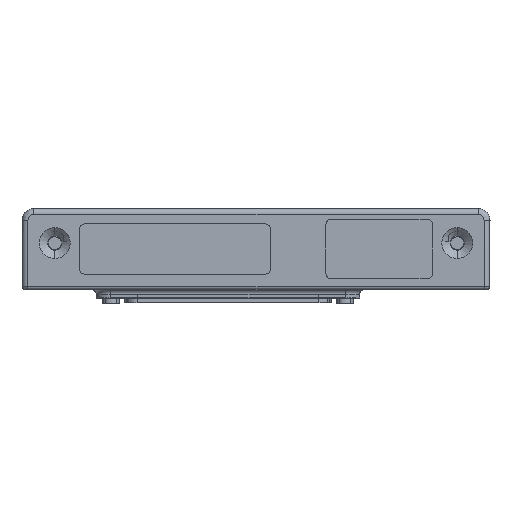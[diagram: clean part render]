
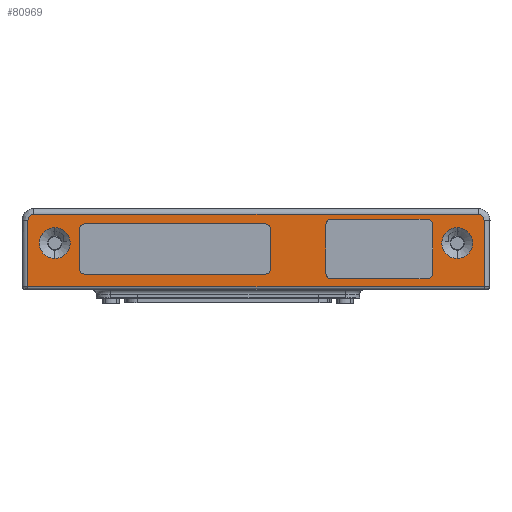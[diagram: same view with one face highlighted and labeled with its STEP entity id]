
A CAD part, left-side view. The second image highlights one B-rep face of the part: STEP entity #80969.
In plain terms, the highlighted planar face has unit normal (-1, 0, 0).
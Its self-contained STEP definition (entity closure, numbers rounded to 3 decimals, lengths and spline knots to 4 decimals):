
#20398=CARTESIAN_POINT('',(-8.68,-2.15,-0.37));
#20399=DIRECTION('',(1.,0.,0.));
#20400=DIRECTION('',(0.,0.,1.));
#20401=AXIS2_PLACEMENT_3D('',#20398,#20399,#20400);
#20403=CARTESIAN_POINT('',(-8.68,-2.15,-0.37));
#20404=DIRECTION('',(1.,0.,0.));
#20405=DIRECTION('',(0.,0.,-1.));
#20406=AXIS2_PLACEMENT_3D('',#20403,#20404,#20405);
#20408=CARTESIAN_POINT('',(-8.68,2.15,-0.37));
#20409=DIRECTION('',(1.,0.,0.));
#20410=DIRECTION('',(0.,0.,1.));
#20411=AXIS2_PLACEMENT_3D('',#20408,#20409,#20410);
#20413=CARTESIAN_POINT('',(-8.68,2.15,-0.37));
#20414=DIRECTION('',(1.,0.,0.));
#20415=DIRECTION('',(0.,0.,-1.));
#20416=AXIS2_PLACEMENT_3D('',#20413,#20414,#20415);
#20418=CARTESIAN_POINT('',(-8.68,-1.8273,-0.693));
#20419=DIRECTION('',(-1.,0.,0.));
#20420=DIRECTION('',(0.,0.,-1.));
#20421=AXIS2_PLACEMENT_3D('',#20418,#20419,#20420);
#20423=DIRECTION('',(0.,0.,1.));
#20424=VECTOR('',#20423,0.52);
#20425=CARTESIAN_POINT('',(-8.68,-1.8873,-0.693));
#20426=LINE('',#20425,#20424);
#20427=CARTESIAN_POINT('',(-8.68,-1.8273,-0.173));
#20428=DIRECTION('',(-1.,0.,0.));
#20429=DIRECTION('',(0.,-1.,0.));
#20430=AXIS2_PLACEMENT_3D('',#20427,#20428,#20429);
#20432=DIRECTION('',(0.,1.,0.));
#20433=VECTOR('',#20432,1.02);
#20434=CARTESIAN_POINT('',(-8.68,-1.8273,-0.113));
#20435=LINE('',#20434,#20433);
#20436=CARTESIAN_POINT('',(-8.68,-0.8073,-0.173));
#20437=DIRECTION('',(-1.,0.,0.));
#20438=DIRECTION('',(0.,0.,1.));
#20439=AXIS2_PLACEMENT_3D('',#20436,#20437,#20438);
#20441=DIRECTION('',(0.,0.,-1.));
#20442=VECTOR('',#20441,0.52);
#20443=CARTESIAN_POINT('',(-8.68,-0.7473,-0.173));
#20444=LINE('',#20443,#20442);
#20445=CARTESIAN_POINT('',(-8.68,-0.8073,-0.693));
#20446=DIRECTION('',(-1.,0.,0.));
#20447=DIRECTION('',(0.,1.,0.));
#20448=AXIS2_PLACEMENT_3D('',#20445,#20446,#20447);
#20450=DIRECTION('',(0.,-1.,0.));
#20451=VECTOR('',#20450,1.02);
#20452=CARTESIAN_POINT('',(-8.68,-0.8073,-0.753));
#20453=LINE('',#20452,#20451);
#20454=CARTESIAN_POINT('',(-8.68,-0.0933,-0.6435));
#20455=DIRECTION('',(-1.,0.,0.));
#20456=DIRECTION('',(0.,0.,-1.));
#20457=AXIS2_PLACEMENT_3D('',#20454,#20455,#20456);
#20459=DIRECTION('',(0.,0.,1.));
#20460=VECTOR('',#20459,0.42);
#20461=CARTESIAN_POINT('',(-8.68,-0.1533,-0.6435));
#20462=LINE('',#20461,#20460);
#20463=CARTESIAN_POINT('',(-8.68,-0.0933,-0.2235));
#20464=DIRECTION('',(-1.,0.,0.));
#20465=DIRECTION('',(0.,-1.,0.));
#20466=AXIS2_PLACEMENT_3D('',#20463,#20464,#20465);
#20468=DIRECTION('',(0.,1.,0.));
#20469=VECTOR('',#20468,1.92);
#20470=CARTESIAN_POINT('',(-8.68,-0.0933,-0.1635));
#20471=LINE('',#20470,#20469);
#20472=CARTESIAN_POINT('',(-8.68,1.8267,-0.2235));
#20473=DIRECTION('',(-1.,0.,0.));
#20474=DIRECTION('',(0.,0.,1.));
#20475=AXIS2_PLACEMENT_3D('',#20472,#20473,#20474);
#20477=DIRECTION('',(0.,0.,-1.));
#20478=VECTOR('',#20477,0.42);
#20479=CARTESIAN_POINT('',(-8.68,1.8867,-0.2235));
#20480=LINE('',#20479,#20478);
#20481=CARTESIAN_POINT('',(-8.68,1.8267,-0.6435));
#20482=DIRECTION('',(-1.,0.,0.));
#20483=DIRECTION('',(0.,1.,0.));
#20484=AXIS2_PLACEMENT_3D('',#20481,#20482,#20483);
#20486=DIRECTION('',(0.,-1.,0.));
#20487=VECTOR('',#20486,1.92);
#20488=CARTESIAN_POINT('',(-8.68,1.8267,-0.7035));
#20489=LINE('',#20488,#20487);
#20490=DIRECTION('',(0.,-1.,0.));
#20491=VECTOR('',#20490,4.8723);
#20492=CARTESIAN_POINT('',(-8.68,2.4362,
-0.834));
#20493=LINE('',#20492,#20491);
#20503=CARTESIAN_POINT('',(-8.68,-2.4362,
-0.834));
#20546=DIRECTION('',(0.,0.,1.));
#20547=VECTOR('',#20546,0.709);
#20548=CARTESIAN_POINT('',(-8.68,-2.4362,
-0.834));
#20549=LINE('',#20548,#20547);
#20554=CARTESIAN_POINT('',(-8.68,-2.375,-0.125));
#20555=DIRECTION('',(-1.,0.,0.));
#20556=DIRECTION('',(0.,-1.,0.));
#20557=AXIS2_PLACEMENT_3D('',#20554,#20555,#20556);
#20569=DIRECTION('',(0.,1.,0.));
#20570=VECTOR('',#20569,4.75);
#20571=CARTESIAN_POINT('',(-8.68,-2.375,-0.0638));
#20572=LINE('',#20571,#20570);
#20582=CARTESIAN_POINT('',(-8.68,2.375,-0.125));
#20583=DIRECTION('',(-1.,0.,0.));
#20584=DIRECTION('',(0.,0.,1.));
#20585=AXIS2_PLACEMENT_3D('',#20582,#20583,#20584);
#20606=DIRECTION('',(0.,0.,-1.));
#20607=VECTOR('',#20606,0.709);
#20608=CARTESIAN_POINT('',(-8.68,2.4362,-0.125));
#20609=LINE('',#20608,#20607);
#44995=CARTESIAN_POINT('',(-8.68,-2.15,-0.205));
#44996=CARTESIAN_POINT('',(-8.68,-2.15,-0.535));
#44997=VERTEX_POINT('',#44995);
#44998=VERTEX_POINT('',#44996);
#44999=CARTESIAN_POINT('',(-8.68,2.15,-0.205));
#45000=CARTESIAN_POINT('',(-8.68,2.15,-0.535));
#45001=VERTEX_POINT('',#44999);
#45002=VERTEX_POINT('',#45000);
#45986=CARTESIAN_POINT('',(-8.68,2.375,-0.0638));
#45987=CARTESIAN_POINT('',(-8.68,2.4362,-0.125));
#45988=VERTEX_POINT('',#45986);
#45989=VERTEX_POINT('',#45987);
#45994=CARTESIAN_POINT('',(-8.68,-2.375,-0.0638));
#45995=VERTEX_POINT('',#45994);
#45998=CARTESIAN_POINT('',(-8.68,-2.4362,-0.125));
#45999=VERTEX_POINT('',#45998);
#46002=VERTEX_POINT('',#20503);
#46006=CARTESIAN_POINT('',(-8.68,2.4362,
-0.834));
#46007=VERTEX_POINT('',#46006);
#46140=CARTESIAN_POINT('',(-8.68,-1.8273,-0.753));
#46141=CARTESIAN_POINT('',(-8.68,-1.8873,-0.693));
#46142=VERTEX_POINT('',#46140);
#46143=VERTEX_POINT('',#46141);
#46144=CARTESIAN_POINT('',(-8.68,-1.8873,-0.173));
#46145=VERTEX_POINT('',#46144);
#46146=CARTESIAN_POINT('',(-8.68,-1.8273,-0.113));
#46147=VERTEX_POINT('',#46146);
#46148=CARTESIAN_POINT('',(-8.68,-0.8073,-0.113));
#46149=VERTEX_POINT('',#46148);
#46150=CARTESIAN_POINT('',(-8.68,-0.7473,-0.173));
#46151=VERTEX_POINT('',#46150);
#46152=CARTESIAN_POINT('',(-8.68,-0.7473,-0.693));
#46153=VERTEX_POINT('',#46152);
#46154=CARTESIAN_POINT('',(-8.68,-0.8073,-0.753));
#46155=VERTEX_POINT('',#46154);
#46156=CARTESIAN_POINT('',(-8.68,-0.0933,-0.7035));
#46157=CARTESIAN_POINT('',(-8.68,-0.1533,-0.6435));
#46158=VERTEX_POINT('',#46156);
#46159=VERTEX_POINT('',#46157);
#46160=CARTESIAN_POINT('',(-8.68,-0.1533,-0.2235));
#46161=VERTEX_POINT('',#46160);
#46162=CARTESIAN_POINT('',(-8.68,-0.0933,-0.1635));
#46163=VERTEX_POINT('',#46162);
#46164=CARTESIAN_POINT('',(-8.68,1.8267,-0.1635));
#46165=VERTEX_POINT('',#46164);
#46166=CARTESIAN_POINT('',(-8.68,1.8867,-0.2235));
#46167=VERTEX_POINT('',#46166);
#46168=CARTESIAN_POINT('',(-8.68,1.8867,-0.6435));
#46169=VERTEX_POINT('',#46168);
#46170=CARTESIAN_POINT('',(-8.68,1.8267,-0.7035));
#46171=VERTEX_POINT('',#46170);
#80903=CARTESIAN_POINT('',(-8.68,0.,-0.8665));
#80904=DIRECTION('',(-1.,0.,0.));
#80905=DIRECTION('',(0.,0.,1.));
#80906=AXIS2_PLACEMENT_3D('',#80903,#80904,#80905);
#80907=PLANE('',#80906);
#80909=ORIENTED_EDGE('',*,*,#80908,.F.);
#80911=ORIENTED_EDGE('',*,*,#80910,.F.);
#80913=ORIENTED_EDGE('',*,*,#80912,.F.);
#80915=ORIENTED_EDGE('',*,*,#80914,.F.);
#80917=ORIENTED_EDGE('',*,*,#80916,.F.);
#80919=ORIENTED_EDGE('',*,*,#80918,.F.);
#80920=EDGE_LOOP('',(#80909,#80911,#80913,#80915,#80917,#80919));
#80921=FACE_OUTER_BOUND('',#80920,.F.);
#80922=ORIENTED_EDGE('',*,*,#80893,.F.);
#80924=ORIENTED_EDGE('',*,*,#80923,.F.);
#80925=EDGE_LOOP('',(#80922,#80924));
#80926=FACE_BOUND('',#80925,.F.);
#80928=ORIENTED_EDGE('',*,*,#80927,.F.);
#80930=ORIENTED_EDGE('',*,*,#80929,.F.);
#80931=EDGE_LOOP('',(#80928,#80930));
#80932=FACE_BOUND('',#80931,.F.);
#80934=ORIENTED_EDGE('',*,*,#80933,.T.);
#80936=ORIENTED_EDGE('',*,*,#80935,.T.);
#80938=ORIENTED_EDGE('',*,*,#80937,.T.);
#80940=ORIENTED_EDGE('',*,*,#80939,.T.);
#80942=ORIENTED_EDGE('',*,*,#80941,.T.);
#80944=ORIENTED_EDGE('',*,*,#80943,.T.);
#80946=ORIENTED_EDGE('',*,*,#80945,.T.);
#80948=ORIENTED_EDGE('',*,*,#80947,.T.);
#80949=EDGE_LOOP('',(#80934,#80936,#80938,#80940,#80942,#80944,#80946,#80948));
#80950=FACE_BOUND('',#80949,.F.);
#80952=ORIENTED_EDGE('',*,*,#80951,.T.);
#80954=ORIENTED_EDGE('',*,*,#80953,.T.);
#80956=ORIENTED_EDGE('',*,*,#80955,.T.);
#80958=ORIENTED_EDGE('',*,*,#80957,.T.);
#80960=ORIENTED_EDGE('',*,*,#80959,.T.);
#80962=ORIENTED_EDGE('',*,*,#80961,.T.);
#80964=ORIENTED_EDGE('',*,*,#80963,.T.);
#80966=ORIENTED_EDGE('',*,*,#80965,.T.);
#80967=EDGE_LOOP('',(#80952,#80954,#80956,#80958,#80960,#80962,#80964,#80966));
#80968=FACE_BOUND('',#80967,.F.);
#80969=ADVANCED_FACE('',(#80921,#80926,#80932,#80950,#80968),#80907,.T.);
#20402=CIRCLE('',#20401,0.165);
#20407=CIRCLE('',#20406,0.165);
#20412=CIRCLE('',#20411,0.165);
#20417=CIRCLE('',#20416,0.165);
#20422=CIRCLE('',#20421,0.06);
#20431=CIRCLE('',#20430,0.06);
#20440=CIRCLE('',#20439,0.06);
#20449=CIRCLE('',#20448,0.06);
#20458=CIRCLE('',#20457,0.06);
#20467=CIRCLE('',#20466,0.06);
#20476=CIRCLE('',#20475,0.06);
#20485=CIRCLE('',#20484,0.06);
#20558=CIRCLE('',#20557,0.0612);
#20586=CIRCLE('',#20585,0.0612);
#80893=EDGE_CURVE('',#44997,#44998,#20402,.T.);
#80908=EDGE_CURVE('',#46007,#46002,#20493,.T.);
#80910=EDGE_CURVE('',#45989,#46007,#20609,.T.);
#80912=EDGE_CURVE('',#45988,#45989,#20586,.T.);
#80914=EDGE_CURVE('',#45995,#45988,#20572,.T.);
#80916=EDGE_CURVE('',#45999,#45995,#20558,.T.);
#80918=EDGE_CURVE('',#46002,#45999,#20549,.T.);
#80923=EDGE_CURVE('',#44998,#44997,#20407,.T.);
#80927=EDGE_CURVE('',#45001,#45002,#20412,.T.);
#80929=EDGE_CURVE('',#45002,#45001,#20417,.T.);
#80933=EDGE_CURVE('',#46142,#46143,#20422,.T.);
#80935=EDGE_CURVE('',#46143,#46145,#20426,.T.);
#80937=EDGE_CURVE('',#46145,#46147,#20431,.T.);
#80939=EDGE_CURVE('',#46147,#46149,#20435,.T.);
#80941=EDGE_CURVE('',#46149,#46151,#20440,.T.);
#80943=EDGE_CURVE('',#46151,#46153,#20444,.T.);
#80945=EDGE_CURVE('',#46153,#46155,#20449,.T.);
#80947=EDGE_CURVE('',#46155,#46142,#20453,.T.);
#80951=EDGE_CURVE('',#46158,#46159,#20458,.T.);
#80953=EDGE_CURVE('',#46159,#46161,#20462,.T.);
#80955=EDGE_CURVE('',#46161,#46163,#20467,.T.);
#80957=EDGE_CURVE('',#46163,#46165,#20471,.T.);
#80959=EDGE_CURVE('',#46165,#46167,#20476,.T.);
#80961=EDGE_CURVE('',#46167,#46169,#20480,.T.);
#80963=EDGE_CURVE('',#46169,#46171,#20485,.T.);
#80965=EDGE_CURVE('',#46171,#46158,#20489,.T.);
